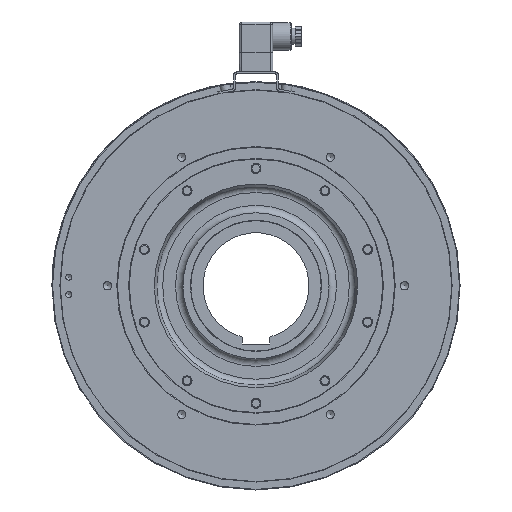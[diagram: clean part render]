
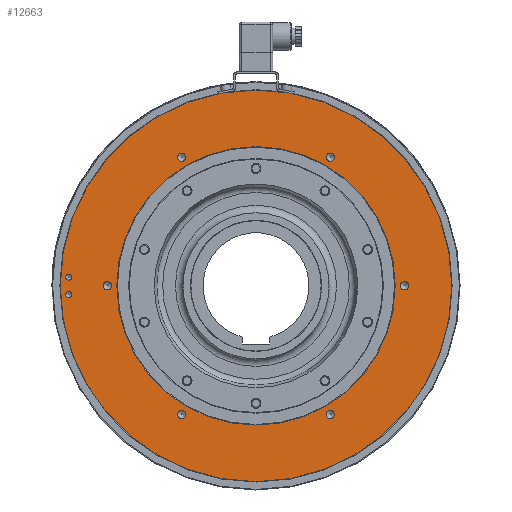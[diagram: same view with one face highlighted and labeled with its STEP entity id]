
A CAD part, left-side view. The second image highlights one B-rep face of the part: STEP entity #12663.
In plain terms, the highlighted planar face has unit normal (-1, 0, 0).
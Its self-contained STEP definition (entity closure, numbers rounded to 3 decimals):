
#597=FACE_BOUND('',#2348,.T.);
#598=FACE_BOUND('',#2349,.T.);
#599=FACE_BOUND('',#2350,.T.);
#600=FACE_BOUND('',#2351,.T.);
#601=FACE_BOUND('',#2352,.T.);
#602=FACE_BOUND('',#2353,.T.);
#603=FACE_BOUND('',#2354,.T.);
#604=FACE_BOUND('',#2355,.T.);
#605=FACE_BOUND('',#2356,.T.);
#789=PLANE('',#14307);
#1491=FACE_OUTER_BOUND('',#2347,.T.);
#2347=EDGE_LOOP('',(#11335,#11336,#11337));
#2348=EDGE_LOOP('',(#11338,#11339));
#2349=EDGE_LOOP('',(#11340,#11341));
#2350=EDGE_LOOP('',(#11342,#11343));
#2351=EDGE_LOOP('',(#11344,#11345));
#2352=EDGE_LOOP('',(#11346,#11347));
#2353=EDGE_LOOP('',(#11348,#11349));
#2354=EDGE_LOOP('',(#11350,#11351));
#2355=EDGE_LOOP('',(#11352,#11353));
#2356=EDGE_LOOP('',(#11354));
#4761=CIRCLE('',#14112,156.8);
#4762=CIRCLE('',#14113,156.8);
#4837=CIRCLE('',#14259,2.459);
#4838=CIRCLE('',#14260,2.459);
#4841=CIRCLE('',#14265,2.459);
#4842=CIRCLE('',#14266,2.459);
#4845=CIRCLE('',#14271,3.324);
#4846=CIRCLE('',#14272,3.324);
#4849=CIRCLE('',#14277,3.324);
#4850=CIRCLE('',#14278,3.324);
#4853=CIRCLE('',#14283,3.324);
#4854=CIRCLE('',#14284,3.324);
#4857=CIRCLE('',#14289,3.324);
#4858=CIRCLE('',#14290,3.324);
#4861=CIRCLE('',#14295,3.324);
#4862=CIRCLE('',#14296,3.324);
#4865=CIRCLE('',#14301,3.324);
#4866=CIRCLE('',#14302,3.324);
#4869=CIRCLE('',#14306,111.5);
#4870=CIRCLE('',#14308,156.8);
#5897=VERTEX_POINT('',#21517);
#5902=VERTEX_POINT('',#21527);
#5903=VERTEX_POINT('',#21529);
#6048=VERTEX_POINT('',#22146);
#6049=VERTEX_POINT('',#22147);
#6053=VERTEX_POINT('',#22159);
#6054=VERTEX_POINT('',#22160);
#6058=VERTEX_POINT('',#22172);
#6059=VERTEX_POINT('',#22173);
#6063=VERTEX_POINT('',#22185);
#6064=VERTEX_POINT('',#22186);
#6068=VERTEX_POINT('',#22198);
#6069=VERTEX_POINT('',#22199);
#6073=VERTEX_POINT('',#22211);
#6074=VERTEX_POINT('',#22212);
#6078=VERTEX_POINT('',#22224);
#6079=VERTEX_POINT('',#22225);
#6083=VERTEX_POINT('',#22237);
#6084=VERTEX_POINT('',#22238);
#6087=VERTEX_POINT('',#22247);
#7610=EDGE_CURVE('',#5903,#5902,#4761,.T.);
#7611=EDGE_CURVE('',#5897,#5903,#4762,.T.);
#7816=EDGE_CURVE('',#6048,#6049,#4837,.T.);
#7817=EDGE_CURVE('',#6049,#6048,#4838,.T.);
#7822=EDGE_CURVE('',#6053,#6054,#4841,.T.);
#7823=EDGE_CURVE('',#6054,#6053,#4842,.T.);
#7828=EDGE_CURVE('',#6058,#6059,#4845,.T.);
#7829=EDGE_CURVE('',#6059,#6058,#4846,.T.);
#7834=EDGE_CURVE('',#6063,#6064,#4849,.T.);
#7835=EDGE_CURVE('',#6064,#6063,#4850,.T.);
#7840=EDGE_CURVE('',#6068,#6069,#4853,.T.);
#7841=EDGE_CURVE('',#6069,#6068,#4854,.T.);
#7846=EDGE_CURVE('',#6073,#6074,#4857,.T.);
#7847=EDGE_CURVE('',#6074,#6073,#4858,.T.);
#7852=EDGE_CURVE('',#6078,#6079,#4861,.T.);
#7853=EDGE_CURVE('',#6079,#6078,#4862,.T.);
#7858=EDGE_CURVE('',#6083,#6084,#4865,.T.);
#7859=EDGE_CURVE('',#6084,#6083,#4866,.T.);
#7864=EDGE_CURVE('',#6087,#6087,#4869,.T.);
#7865=EDGE_CURVE('',#5902,#5897,#4870,.T.);
#11335=ORIENTED_EDGE('',*,*,#7610,.T.);
#11336=ORIENTED_EDGE('',*,*,#7865,.T.);
#11337=ORIENTED_EDGE('',*,*,#7611,.T.);
#11338=ORIENTED_EDGE('',*,*,#7816,.T.);
#11339=ORIENTED_EDGE('',*,*,#7817,.T.);
#11340=ORIENTED_EDGE('',*,*,#7822,.T.);
#11341=ORIENTED_EDGE('',*,*,#7823,.T.);
#11342=ORIENTED_EDGE('',*,*,#7828,.T.);
#11343=ORIENTED_EDGE('',*,*,#7829,.T.);
#11344=ORIENTED_EDGE('',*,*,#7834,.T.);
#11345=ORIENTED_EDGE('',*,*,#7835,.T.);
#11346=ORIENTED_EDGE('',*,*,#7840,.T.);
#11347=ORIENTED_EDGE('',*,*,#7841,.T.);
#11348=ORIENTED_EDGE('',*,*,#7846,.T.);
#11349=ORIENTED_EDGE('',*,*,#7847,.T.);
#11350=ORIENTED_EDGE('',*,*,#7852,.T.);
#11351=ORIENTED_EDGE('',*,*,#7853,.T.);
#11352=ORIENTED_EDGE('',*,*,#7858,.T.);
#11353=ORIENTED_EDGE('',*,*,#7859,.T.);
#11354=ORIENTED_EDGE('',*,*,#7864,.F.);
#12663=ADVANCED_FACE('',(#1491,#597,#598,#599,#600,#601,#602,#603,#604,
#605),#789,.T.);
#14112=AXIS2_PLACEMENT_3D('',#21530,#17612,#17613);
#14113=AXIS2_PLACEMENT_3D('',#21531,#17614,#17615);
#14259=AXIS2_PLACEMENT_3D('',#22148,#18011,#18012);
#14260=AXIS2_PLACEMENT_3D('',#22149,#18013,#18014);
#14265=AXIS2_PLACEMENT_3D('',#22161,#18025,#18026);
#14266=AXIS2_PLACEMENT_3D('',#22162,#18027,#18028);
#14271=AXIS2_PLACEMENT_3D('',#22174,#18039,#18040);
#14272=AXIS2_PLACEMENT_3D('',#22175,#18041,#18042);
#14277=AXIS2_PLACEMENT_3D('',#22187,#18053,#18054);
#14278=AXIS2_PLACEMENT_3D('',#22188,#18055,#18056);
#14283=AXIS2_PLACEMENT_3D('',#22200,#18067,#18068);
#14284=AXIS2_PLACEMENT_3D('',#22201,#18069,#18070);
#14289=AXIS2_PLACEMENT_3D('',#22213,#18081,#18082);
#14290=AXIS2_PLACEMENT_3D('',#22214,#18083,#18084);
#14295=AXIS2_PLACEMENT_3D('',#22226,#18095,#18096);
#14296=AXIS2_PLACEMENT_3D('',#22227,#18097,#18098);
#14301=AXIS2_PLACEMENT_3D('',#22239,#18109,#18110);
#14302=AXIS2_PLACEMENT_3D('',#22240,#18111,#18112);
#14306=AXIS2_PLACEMENT_3D('',#22249,#18121,#18122);
#14307=AXIS2_PLACEMENT_3D('',#22250,#18123,#18124);
#14308=AXIS2_PLACEMENT_3D('',#22251,#18125,#18126);
#17612=DIRECTION('center_axis',(-1.,0.,0.));
#17613=DIRECTION('ref_axis',(0.,1.,0.));
#17614=DIRECTION('center_axis',(-1.,0.,0.));
#17615=DIRECTION('ref_axis',(0.,1.,0.));
#18011=DIRECTION('center_axis',(1.,0.,0.));
#18012=DIRECTION('ref_axis',(0.,0.,
1.));
#18013=DIRECTION('center_axis',(1.,0.,0.));
#18014=DIRECTION('ref_axis',(0.,0.,
1.));
#18025=DIRECTION('center_axis',(1.,0.,0.));
#18026=DIRECTION('ref_axis',(0.,0.,
1.));
#18027=DIRECTION('center_axis',(1.,0.,0.));
#18028=DIRECTION('ref_axis',(0.,0.,
1.));
#18039=DIRECTION('center_axis',(1.,0.,0.));
#18040=DIRECTION('ref_axis',(0.,0.,
1.));
#18041=DIRECTION('center_axis',(1.,0.,0.));
#18042=DIRECTION('ref_axis',(0.,0.,
1.));
#18053=DIRECTION('center_axis',(1.,0.,0.));
#18054=DIRECTION('ref_axis',(0.,0.,
1.));
#18055=DIRECTION('center_axis',(1.,0.,0.));
#18056=DIRECTION('ref_axis',(0.,0.,
1.));
#18067=DIRECTION('center_axis',(1.,0.,0.));
#18068=DIRECTION('ref_axis',(0.,0.,
1.));
#18069=DIRECTION('center_axis',(1.,0.,0.));
#18070=DIRECTION('ref_axis',(0.,0.,
1.));
#18081=DIRECTION('center_axis',(1.,0.,0.));
#18082=DIRECTION('ref_axis',(0.,0.,
1.));
#18083=DIRECTION('center_axis',(1.,0.,0.));
#18084=DIRECTION('ref_axis',(0.,0.,
1.));
#18095=DIRECTION('center_axis',(1.,0.,0.));
#18096=DIRECTION('ref_axis',(0.,0.,
1.));
#18097=DIRECTION('center_axis',(1.,0.,0.));
#18098=DIRECTION('ref_axis',(0.,0.,
1.));
#18109=DIRECTION('center_axis',(1.,0.,0.));
#18110=DIRECTION('ref_axis',(0.,0.,
1.));
#18111=DIRECTION('center_axis',(1.,0.,0.));
#18112=DIRECTION('ref_axis',(0.,0.,
1.));
#18121=DIRECTION('center_axis',(-1.,0.,0.));
#18122=DIRECTION('ref_axis',(0.,-1.,0.));
#18123=DIRECTION('center_axis',(-1.,0.,0.));
#18124=DIRECTION('ref_axis',(0.,0.,
1.));
#18125=DIRECTION('center_axis',(-1.,0.,0.));
#18126=DIRECTION('ref_axis',(0.,1.,0.));
#21517=CARTESIAN_POINT('',(-21.,-27.228,154.418));
#21527=CARTESIAN_POINT('',(-21.,-156.8,0.));
#21529=CARTESIAN_POINT('',(-21.,156.8,0.));
#21530=CARTESIAN_POINT('Origin',(-21.,0.,
0.));
#21531=CARTESIAN_POINT('Origin',(-21.,0.,
0.));
#22146=CARTESIAN_POINT('',(-21.,150.,9.459));
#22147=CARTESIAN_POINT('',(-21.,150.,4.542));
#22148=CARTESIAN_POINT('Origin',(-21.,150.,7.));
#22149=CARTESIAN_POINT('Origin',(-21.,150.,7.));
#22159=CARTESIAN_POINT('',(-21.,150.,-4.542));
#22160=CARTESIAN_POINT('',(-21.,150.,-9.459));
#22161=CARTESIAN_POINT('Origin',(-21.,150.,-7.));
#22162=CARTESIAN_POINT('Origin',(-21.,150.,-7.));
#22172=CARTESIAN_POINT('',(-21.,59.5,106.381));
#22173=CARTESIAN_POINT('',(-21.,59.5,99.734));
#22174=CARTESIAN_POINT('Origin',(-21.,59.5,103.057));
#22175=CARTESIAN_POINT('Origin',(-21.,59.5,103.057));
#22185=CARTESIAN_POINT('',(-21.,-59.5,106.381));
#22186=CARTESIAN_POINT('',(-21.,-59.5,99.734));
#22187=CARTESIAN_POINT('Origin',(-21.,-59.5,103.057));
#22188=CARTESIAN_POINT('Origin',(-21.,-59.5,103.057));
#22198=CARTESIAN_POINT('',(-21.,-119.,3.323));
#22199=CARTESIAN_POINT('',(-21.,-119.,-3.324));
#22200=CARTESIAN_POINT('Origin',(-21.,-119.,0.));
#22201=CARTESIAN_POINT('Origin',(-21.,-119.,0.));
#22211=CARTESIAN_POINT('',(-21.,-59.5,-99.734));
#22212=CARTESIAN_POINT('',(-21.,-59.5,-106.381));
#22213=CARTESIAN_POINT('Origin',(-21.,-59.5,-103.057));
#22214=CARTESIAN_POINT('Origin',(-21.,-59.5,-103.057));
#22224=CARTESIAN_POINT('',(-21.,59.5,-99.734));
#22225=CARTESIAN_POINT('',(-21.,59.5,-106.381));
#22226=CARTESIAN_POINT('Origin',(-21.,59.5,-103.057));
#22227=CARTESIAN_POINT('Origin',(-21.,59.5,-103.057));
#22237=CARTESIAN_POINT('',(-21.,119.,3.324));
#22238=CARTESIAN_POINT('',(-21.,119.,-3.324));
#22239=CARTESIAN_POINT('Origin',(-21.,119.,0.));
#22240=CARTESIAN_POINT('Origin',(-21.,119.,0.));
#22247=CARTESIAN_POINT('',(-21.,111.5,0.));
#22249=CARTESIAN_POINT('Origin',(-21.,0.,
0.));
#22250=CARTESIAN_POINT('Origin',(-21.,133.9,0.));
#22251=CARTESIAN_POINT('Origin',(-21.,0.,
0.));
